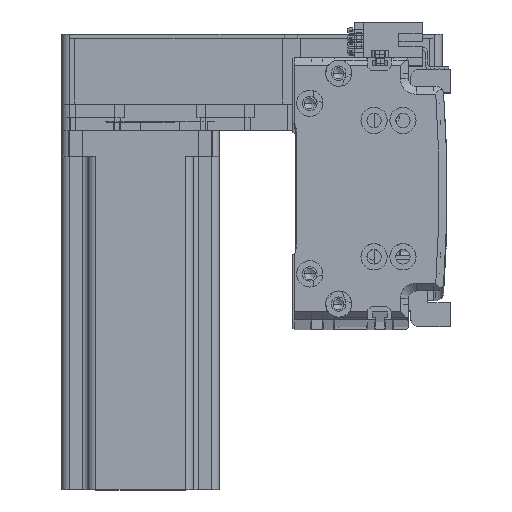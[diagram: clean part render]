
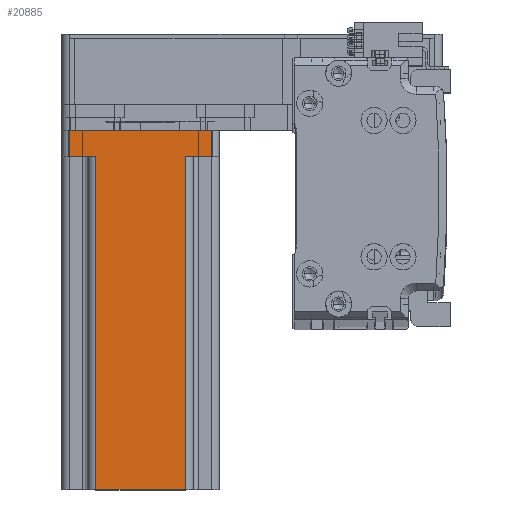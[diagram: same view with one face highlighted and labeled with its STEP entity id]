
A CAD part, top view. The second image highlights one B-rep face of the part: STEP entity #20885.
In plain terms, the highlighted planar face has unit normal (0, 0, 1) as drawn and (0, -1, 0) by its records, which use the part's own axes.
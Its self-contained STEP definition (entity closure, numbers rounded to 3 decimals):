
#746 = CARTESIAN_POINT ( 'NONE',  ( -17., -30., 10. ) ) ;
#999 = CARTESIAN_POINT ( 'NONE',  ( 30., -30., 137. ) ) ;
#3375 = VECTOR ( 'NONE', #32377, 1000. ) ;
#4732 = ORIENTED_EDGE ( 'NONE', *, *, #30505, .T. ) ;
#5914 = FACE_OUTER_BOUND ( 'NONE', #65239, .T. ) ;
#6281 = VERTEX_POINT ( 'NONE', #32725 ) ;
#6502 = VECTOR ( 'NONE', #38558, 1000. ) ;
#6835 = EDGE_CURVE ( 'NONE', #50012, #29853, #62184, .T. ) ;
#7344 = ORIENTED_EDGE ( 'NONE', *, *, #12307, .T. ) ;
#8020 = DIRECTION ( 'NONE',  ( 0., 0., 1. ) ) ;
#12307 = EDGE_CURVE ( 'NONE', #33400, #32481, #26399, .T. ) ;
#12585 = CARTESIAN_POINT ( 'NONE',  ( 30., -30., 0. ) ) ;
#14354 = VERTEX_POINT ( 'NONE', #63932 ) ;
#16645 = VERTEX_POINT ( 'NONE', #23158 ) ;
#18646 = CARTESIAN_POINT ( 'NONE',  ( 17., -30., 137. ) ) ;
#20885 = ADVANCED_FACE ( 'NONE', ( #5914 ), #35030, .F. ) ;
#23158 = CARTESIAN_POINT ( 'NONE',  ( 17., -30., 137. ) ) ;
#24459 = ORIENTED_EDGE ( 'NONE', *, *, #51594, .T. ) ;
#24818 = DIRECTION ( 'NONE',  ( 0., 1., 0. ) ) ;
#26145 = ORIENTED_EDGE ( 'NONE', *, *, #33414, .T. ) ;
#26382 = LINE ( 'NONE', #18646, #38593 ) ;
#26399 = LINE ( 'NONE', #33612, #66546 ) ;
#26666 = LINE ( 'NONE', #27391, #65169 ) ;
#27391 = CARTESIAN_POINT ( 'NONE',  ( -27., -30., 137. ) ) ;
#28025 = AXIS2_PLACEMENT_3D ( 'NONE', #56071, #24818, #61407 ) ;
#29718 = VECTOR ( 'NONE', #36434, 1000. ) ;
#29853 = VERTEX_POINT ( 'NONE', #33232 ) ;
#30048 = VERTEX_POINT ( 'NONE', #50624 ) ;
#30373 = CARTESIAN_POINT ( 'NONE',  ( 27., -30., 137. ) ) ;
#30505 = EDGE_CURVE ( 'NONE', #14354, #16645, #26382, .T. ) ;
#32377 = DIRECTION ( 'NONE',  ( 1., 0., 0. ) ) ;
#32481 = VERTEX_POINT ( 'NONE', #746 ) ;
#32725 = CARTESIAN_POINT ( 'NONE',  ( -27., -30., 10. ) ) ;
#33232 = CARTESIAN_POINT ( 'NONE',  ( 27., -30., 0. ) ) ;
#33400 = VERTEX_POINT ( 'NONE', #57273 ) ;
#33414 = EDGE_CURVE ( 'NONE', #30048, #14354, #43626, .T. ) ;
#33612 = CARTESIAN_POINT ( 'NONE',  ( -17., -30., 137. ) ) ;
#35030 = PLANE ( 'NONE',  #28025 ) ;
#36077 = ORIENTED_EDGE ( 'NONE', *, *, #63955, .F. ) ;
#36434 = DIRECTION ( 'NONE',  ( -1., 0., 0. ) ) ;
#36829 = ORIENTED_EDGE ( 'NONE', *, *, #62433, .F. ) ;
#37192 = EDGE_CURVE ( 'NONE', #29853, #30048, #46437, .T. ) ;
#38558 = DIRECTION ( 'NONE',  ( 1., 0., 0. ) ) ;
#38593 = VECTOR ( 'NONE', #8020, 1000. ) ;
#38756 = DIRECTION ( 'NONE',  ( 1., 0., 0. ) ) ;
#38843 = DIRECTION ( 'NONE',  ( 0., 0., -1. ) ) ;
#42355 = VECTOR ( 'NONE', #38756, 1000. ) ;
#43626 = LINE ( 'NONE', #62584, #29718 ) ;
#44684 = CARTESIAN_POINT ( 'NONE',  ( -27., -30., 0. ) ) ;
#46437 = LINE ( 'NONE', #30373, #58742 ) ;
#48405 = DIRECTION ( 'NONE',  ( 0., 0., -1. ) ) ;
#50012 = VERTEX_POINT ( 'NONE', #44684 ) ;
#50624 = CARTESIAN_POINT ( 'NONE',  ( 27., -30., 10. ) ) ;
#51594 = EDGE_CURVE ( 'NONE', #6281, #50012, #26666, .T. ) ;
#53080 = LINE ( 'NONE', #64926, #42355 ) ;
#56071 = CARTESIAN_POINT ( 'NONE',  ( 30., -30., 137. ) ) ;
#57273 = CARTESIAN_POINT ( 'NONE',  ( -17., -30., 137. ) ) ;
#57420 = LINE ( 'NONE', #999, #3375 ) ;
#58742 = VECTOR ( 'NONE', #62445, 1000. ) ;
#59910 = ORIENTED_EDGE ( 'NONE', *, *, #6835, .T. ) ;
#61407 = DIRECTION ( 'NONE',  ( -1., 0., 0. ) ) ;
#62184 = LINE ( 'NONE', #12585, #6502 ) ;
#62433 = EDGE_CURVE ( 'NONE', #6281, #32481, #53080, .T. ) ;
#62445 = DIRECTION ( 'NONE',  ( 0., 0., 1. ) ) ;
#62584 = CARTESIAN_POINT ( 'NONE',  ( 20., -30., 10. ) ) ;
#62903 = ORIENTED_EDGE ( 'NONE', *, *, #37192, .T. ) ;
#63932 = CARTESIAN_POINT ( 'NONE',  ( 17., -30., 10. ) ) ;
#63955 = EDGE_CURVE ( 'NONE', #33400, #16645, #57420, .T. ) ;
#64926 = CARTESIAN_POINT ( 'NONE',  ( -20., -30., 10. ) ) ;
#65169 = VECTOR ( 'NONE', #48405, 1000. ) ;
#65239 = EDGE_LOOP ( 'NONE', ( #36077, #7344, #36829, #24459, #59910, #62903, #26145, #4732 ) ) ;
#66546 = VECTOR ( 'NONE', #38843, 1000. ) ;
